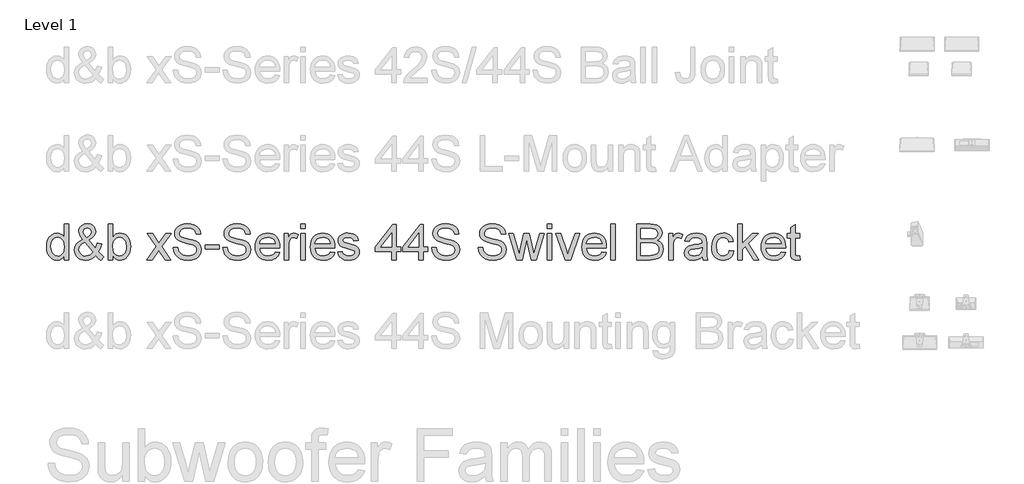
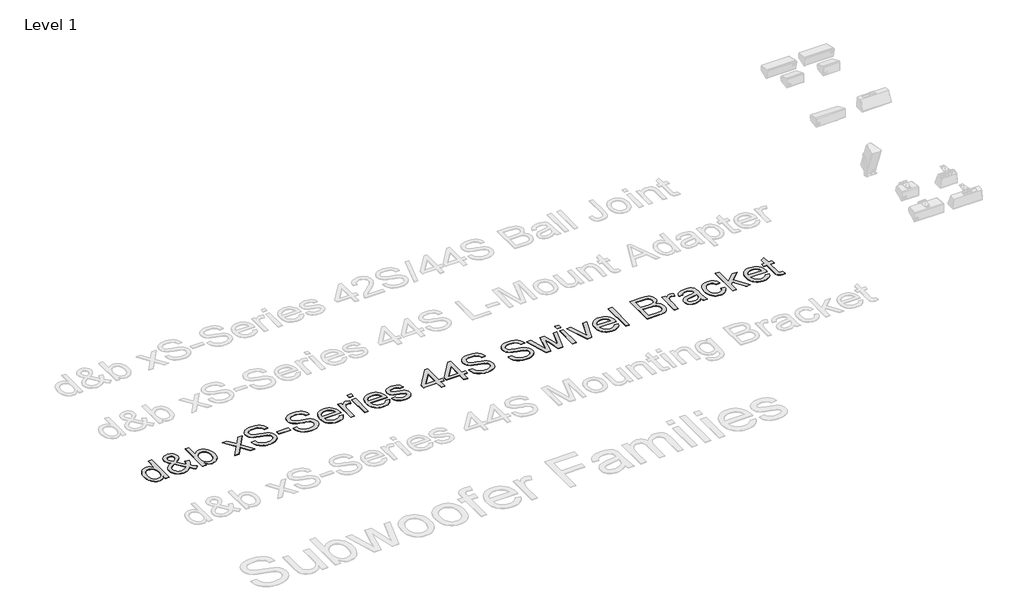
# One storey, part 26 of 55: 1 proxy.
"""IFC4 building model written with IfcOpenShell, lengths in millimetres."""

import ifcopenshell
import ifcopenshell.guid

model = None  # the IFC model being written
_history = None  # IfcOwnerHistory: only IFC2X3 demands one
_inside = {}  # id of a spatial element -> (the spatial element, [elements in it])
_under = {}  # id of a project, library or spatial element -> (it, [spatial elements below it])
_declared = {}  # id of a project -> (the project, [libraries it declares])
_typed = {}  # id of a type object -> (the type object, [elements of that type])
_made_of = {}  # id of a material, layer set ... -> (it, [elements and type objects made of it])


def new_model(schema):
    """Start an empty IFC model of exactly this schema.

    Asked for "IFC4X3", IfcOpenShell would pick the latest addendum, in which some entities
    have other attributes; the version numbers below select the first issue.
    IFC2X3 requires an IfcOwnerHistory on every rooted entity: one is made here for all.
    """
    global model, _history
    if schema == "IFC4X3":
        model = ifcopenshell.file(schema_version=(4, 3, 0, 0))
    else:
        model = ifcopenshell.file(schema=schema)
    _inside.clear()
    _under.clear()
    _declared.clear()
    _typed.clear()
    _made_of.clear()
    _history = None
    if model.schema == "IFC2X3":
        org = make("IfcOrganization", Name="unknown")
        user = make(
            "IfcPersonAndOrganization",
            ThePerson=make("IfcPerson", FamilyName="unknown"),
            TheOrganization=org,
        )
        app = make(
            "IfcApplication",
            ApplicationDeveloper=org,
            Version="unknown",
            ApplicationFullName="unknown",
            ApplicationIdentifier="unknown",
        )
        _history = make(
            "IfcOwnerHistory",
            OwningUser=user,
            OwningApplication=app,
            ChangeAction="ADDED",
            CreationDate=0,
        )
    return model


def make(cls, **values):
    """One entity of the class cls with the attributes given. An attribute that is None is left unset."""
    return model.create_entity(
        cls, **{name: value for name, value in values.items() if value is not None}
    )


def rooted(cls, **values):
    """An entity with a GlobalId (a new one), such as an element, a storey or a relation."""
    return make(cls, GlobalId=ifcopenshell.guid.new(), OwnerHistory=_history, **values)


def si_unit(unit_type, name, prefix=None):
    """IfcSIUnit, for example si_unit("LENGTHUNIT", "METRE", prefix="MILLI")."""
    return make("IfcSIUnit", UnitType=unit_type, Prefix=prefix, Name=name)


def assignment(units):
    """IfcUnitAssignment: the units of a project."""
    return None if units is None else make("IfcUnitAssignment", Units=units)


def point(xyz):
    """IfcCartesianPoint."""
    return None if xyz is None else make("IfcCartesianPoint", Coordinates=xyz)


def direction(xyz):
    """IfcDirection."""
    return None if xyz is None else make("IfcDirection", DirectionRatios=xyz)


def frame(location, z_axis=None, x_axis=None):
    """IfcAxis2Placement3D, a coordinate frame: its origin and axes. An axis left out is left unset."""
    return make(
        "IfcAxis2Placement3D",
        Location=point(location),
        Axis=direction(z_axis),
        RefDirection=direction(x_axis),
    )


def origin():
    """The frame at (0, 0, 0) with its axes left unset."""
    return frame((0.0, 0.0, 0.0))


def origin_with_axes():
    """The frame at (0, 0, 0) with the z axis (0, 0, 1) and the x axis (1, 0, 0) written out."""
    return frame((0.0, 0.0, 0.0), z_axis=(0.0, 0.0, 1.0), x_axis=(1.0, 0.0, 0.0))


def place(relative_to, where):
    """IfcLocalPlacement: puts the frame where relative to a parent placement (None: the world)."""
    return make(
        "IfcLocalPlacement", PlacementRelTo=relative_to, RelativePlacement=where
    )


def context(
    kind, dimensions, precision=None, world=None, true_north=None, identifier=None
):
    """IfcGeometricRepresentationContext, for example the 3D "Model" context."""
    return make(
        "IfcGeometricRepresentationContext",
        ContextIdentifier=identifier,
        ContextType=kind,
        CoordinateSpaceDimension=dimensions,
        Precision=precision,
        WorldCoordinateSystem=world,
        TrueNorth=true_north,
    )


def project(units=None, contexts=None):
    """IfcProject with its units and contexts."""
    return rooted(
        "IfcProject",
        Name="project",
        RepresentationContexts=contexts,
        UnitsInContext=assignment(units),
    )


def spatial(cls, under=None, at=None, **own):
    """A site, building, storey or space (cls), placed at a placement, below another one or the project."""
    s = rooted(cls, ObjectPlacement=at, **own)
    if under is not None:
        _under.setdefault(under.id(), (under, []))[1].append(s)
    return s


def polyline(points):
    """IfcPolyline through the points."""
    return make("IfcPolyline", Points=[point(p) for p in points])


def outline(outer, holes=None, kind="AREA"):
    """IfcArbitraryClosedProfileDef: a profile drawn as a closed curve; with holes, ...WithVoids."""
    if holes is None:
        return make("IfcArbitraryClosedProfileDef", ProfileType=kind, OuterCurve=outer)
    return make(
        "IfcArbitraryProfileDefWithVoids",
        ProfileType=kind,
        OuterCurve=outer,
        InnerCurves=holes,
    )


def extrude(swept, where, along, depth):
    """IfcExtrudedAreaSolid: the profile swept, set in the frame where, extruded along a direction by depth."""
    return make(
        "IfcExtrudedAreaSolid",
        SweptArea=swept,
        Position=where,
        ExtrudedDirection=direction(along),
        Depth=depth,
    )


def shape(context_of_items, identifier, shape_type, items):
    """IfcShapeRepresentation: the items that make up one representation, for example the "Body"."""
    return make(
        "IfcShapeRepresentation",
        ContextOfItems=context_of_items,
        RepresentationIdentifier=identifier,
        RepresentationType=shape_type,
        Items=items,
    )


def made_of(thing, what):
    """Note that an element or type object is made of a material, layer set ...; save() writes the relation."""
    if what is not None:
        _made_of.setdefault(what.id(), (what, []))[1].append(thing)
    return thing


def element(
    cls,
    number,
    at=None,
    inside=None,
    cuts=None,
    type_object=None,
    material=None,
    context=None,
    identifier="Body",
    shape_type=None,
    held_by="IfcProductDefinitionShape",
    body=None,
    shapes=None,
    **own,
):
    """One element of the class cls, such as IfcWall. Its Tag is "e" and its number.

    at: its placement. inside: the storey or other place that contains it. cuts: it is an
    opening in that element (IfcRelVoidsElement). A single representation is given by context,
    identifier, shape_type and body (its items); several are given by shapes. held_by: the class
    of the entity that holds the representations. save() writes the other relations.
    """
    e = rooted(cls, Tag="e%d" % number, ObjectPlacement=at, **own)
    if body is not None:
        shapes = [shape(context, identifier, shape_type, body)]
    if shapes is not None:
        e.Representation = make(held_by, Representations=shapes)
    if inside is not None:
        _inside.setdefault(inside.id(), (inside, []))[1].append(e)
    if cuts is not None:
        rooted(
            "IfcRelVoidsElement", RelatingBuildingElement=cuts, RelatedOpeningElement=e
        )
    if type_object is not None:
        _typed.setdefault(type_object.id(), (type_object, []))[1].append(e)
    return made_of(e, material)


def aggregate(whole, parts):
    """IfcRelAggregates: a whole, such as a stair, and the parts it consists of."""
    return rooted("IfcRelAggregates", RelatingObject=whole, RelatedObjects=parts)


def save(model, path):
    """Write the relations noted so far, then the file.

    IfcRelAggregates (storeys below a building ...), IfcRelContainedInSpatialStructure (elements
    in a storey), IfcRelDefinesByType, IfcRelAssociatesMaterial and IfcRelDeclares: one each for
    every whole, place, type object, material and project.
    """
    for whole, parts in _under.values():
        aggregate(whole, parts)
    for where, things in _inside.values():
        rooted(
            "IfcRelContainedInSpatialStructure",
            RelatedElements=things,
            RelatingStructure=where,
        )
    for kind, things in _typed.values():
        rooted("IfcRelDefinesByType", RelatedObjects=things, RelatingType=kind)
    for what, things in _made_of.values():
        rooted("IfcRelAssociatesMaterial", RelatedObjects=things, RelatingMaterial=what)
    for by, libraries in _declared.values():
        rooted("IfcRelDeclares", RelatingContext=by, RelatedDefinitions=libraries)
    model.write(path)


model = new_model("IFC4")

# Units and contexts
model_context = context("Model", 3, world=origin())
ifc_project = project(units=[si_unit("LENGTHUNIT", "METRE", prefix="MILLI")], contexts=[model_context])

# Site, building, storey
site = spatial("IfcSite", under=ifc_project)
building = spatial("IfcBuilding", under=site)
storey = spatial("IfcBuildingStorey", under=building, Name="Level 1", Elevation=0.0)

# Proxy
placement = place(None, origin())
element("IfcBuildingElementProxy", 1, Name="400mm Arial", ObjectType="400mm Arial", at=placement, inside=storey, context=model_context, shape_type="SweptSolid", body=[
    extrude(outline(polyline([(-20879.8211974, -9648.6945164), (-20879.8211974, -9601.3113154), (-20894.8491769, -9624.7883181), (-20913.0532043, -9641.5576057), (-20934.4332796, -9651.6191783), (-20958.9894028, -9654.9730358), (-20991.4611202, -9650.1169935), (-21021.1859854, -9635.5488665), (-21046.3491139, -9612.2864616), (-21065.1356211, -9581.3475858), (-21076.8342686, -9543.9830379), (-21080.7338177, -9501.4436165), (-21077.1408369, -9459.4314926), (-21066.3618944, -9421.4905962), (-21048.4092531, -9389.7791682), (-21023.2951755, -9366.4554497), (-20992.9203855, -9352.1080519), (-20959.1856065, -9347.325586), (-20934.6110892, -9350.7468885), (-20912.8815261, -9361.0107962), (-20894.4629008, -9376.7438829), (-20879.8211974, -9396.5727224), (-20879.8211974, -9246.8692758), (-20829.5930424, -9246.8692758), (-20829.5930424, -9648.6945164), (-20879.8211974, -9648.6945164)]), holes=[polyline([(-21030.5056627, -9501.2474128), (-21029.089317, -9525.6042665), (-21024.8402799, -9546.6808392), (-21017.7585515, -9564.4771307), (-21007.8441318, -9578.9931411), (-20983.1469871, -9598.3069458), (-20969.2717046, -9603.135397), (-20954.3786151, -9604.7448807), (-20939.415015, -9603.2089734), (-20925.6225058, -9598.6012514), (-20901.5507606, -9580.1703635), (-20892.0440767, -9566.2613584), (-20885.2535882, -9549.1088603), (-20879.8211974, -9505.0733855), (-20885.3516901, -9456.9298951), (-20892.2648059, -9438.3947739), (-20901.9431681, -9423.5507354), (-20913.6448812, -9412.1770504), (-20926.6280499, -9404.0529896), (-20940.8926743, -9399.1785532), (-20956.4387543, -9397.5537411), (-20971.6261493, -9399.1141738), (-20985.5014319, -9403.7954722), (-20998.064602, -9411.5976362), (-21009.3156597, -9422.5206658), (-21018.586286, -9436.8036843), (-21025.2081619, -9454.6858149), (-21030.5056627, -9501.2474128)])]), origin_with_axes(), (0.0, 0.0, 1.0), 5.0),
    extrude(outline(polyline([(-20523.809528, -9599.0549725), (-20549.3405384, -9623.5191252), (-20577.0788409, -9640.99352), (-20607.0734862, -9651.4781569), (-20639.3735254, -9654.9730358), (-20668.6814577, -9652.3855991), (-20694.8010793, -9644.623289), (-20717.7323904, -9631.6861055), (-20737.4753908, -9613.5740486), (-20750.308341, -9596.2038871), (-20759.4747341, -9577.8404442), (-20764.9745699, -9558.4837198), (-20766.8078485, -9538.1337141), (-20760.9094739, -9502.9396699), (-20743.2143499, -9471.3263438), (-20713.796053, -9443.3182613), (-20672.7281596, -9418.9399477), (-20694.6416638, -9390.5885086), (-20707.7995765, -9368.1231814), (-20714.3846642, -9348.9442668), (-20716.5796934, -9330.4520651), (-20714.8506481, -9312.8979626), (-20709.6635119, -9296.5333452), (-20701.018285, -9281.3582129), (-20688.9149674, -9267.3725657), (-20674.1935562, -9255.6555241), (-20657.6940487, -9247.2862088), (-20639.4164449, -9242.2646195), (-20619.3607448, -9240.5907564), (-20600.212487, -9242.1910431), (-20582.8913764, -9246.9919032), (-20567.397413, -9254.9933366), (-20553.7305969, -9266.1953433), (-20542.5715097, -9279.6414302), (-20534.6007332, -9294.3751041), (-20529.8182672, -9310.396365), (-20528.2241119, -9327.7052129), (-20532.9452642, -9355.68877), (-20547.108721, -9381.563137), (-20570.7144823, -9405.3283139), (-20603.7625482, -9426.9843007), (-20531.069066, -9517.5323224), (-20518.6837055, -9491.6579554), (-20509.3885538, -9461.9085647), (-20459.1603987, -9472.7978718), (-20474.6114425, -9519.3226815), (-20494.6732739, -9555.4977443), (-20466.1256311, -9588.8033276), (-20434.0463211, -9616.3209009), (-20471.7174374, -9654.9730358), (-20497.3465498, -9631.52669), (-20523.809528, -9599.0549725)]), holes=[polyline([(-20557.4584678, -9562.8553842), (-20647.1235727, -9450.9211558), (-20681.3733865, -9472.7733463), (-20702.305872, -9493.0068561), (-20713.0112381, -9512.3329235), (-20716.5796934, -9531.4627873), (-20711.6991256, -9555.1543878), (-20697.0574222, -9579.7289051), (-20686.2784798, -9590.6733944), (-20673.4639236, -9598.4908868), (-20658.6137537, -9603.1813823), (-20641.7279702, -9604.7448807), (-20619.0051256, -9601.8263502), (-20595.5710425, -9593.0707588), (-20574.1480476, -9579.6798541), (-20557.4584678, -9562.8553842)]), polyline([(-20629.1709314, -9395.2973981), (-20602.9041569, -9378.6323438), (-20587.8700461, -9364.1500559), (-20580.8067117, -9350.0601755), (-20578.452267, -9334.5723435), (-20581.5547385, -9317.0243723), (-20590.862153, -9303.0325938), (-20604.829406, -9293.8723321), (-20621.9113933, -9290.8189115), (-20639.3612626, -9293.8478066), (-20653.6473468, -9302.9344919), (-20663.1754905, -9316.3867102), (-20666.3515384, -9332.5122043), (-20662.0350563, -9350.9063041), (-20648.9875082, -9371.360543), (-20629.1709314, -9395.2973981)])]), origin_with_axes(), (0.0, 0.0, 1.0), 5.0),
    extrude(outline(polyline([(-20333.590011, -9648.6945164), (-20383.8181661, -9648.6945164), (-20383.8181661, -9246.8692758), (-20333.590011, -9246.8692758), (-20333.590011, -9395.8860093), (-20317.0721094, -9374.6408241), (-20298.4204923, -9359.4656918), (-20277.6351595, -9350.3606124), (-20254.7161112, -9347.325586), (-20228.8417442, -9350.0601755), (-20204.3898543, -9358.263944), (-20182.758393, -9371.4218567), (-20165.3453119, -9389.0188788), (-20151.6968898, -9410.883332), (-20141.3594058, -9436.8435381), (-20134.8478945, -9465.8203766), (-20132.6773907, -9496.734727), (-20134.9245365, -9532.4070178), (-20141.6659741, -9563.7873519), (-20152.9017034, -9590.8757295), (-20168.6317244, -9613.6721505), (-20187.5132678, -9631.7412878), (-20208.2035643, -9644.6478145), (-20230.702614, -9652.3917305), (-20255.0104168, -9654.9730358), (-20278.6836232, -9651.6437038), (-20299.671291, -9641.6557076), (-20317.9734203, -9625.0090473), (-20333.590011, -9601.7037229), (-20333.590011, -9648.6945164)]), holes=[polyline([(-20333.590011, -9499.0891717), (-20330.1564457, -9540.9786682), (-20319.8557498, -9569.3301073), (-20307.6849872, -9584.8240707), (-20293.5399244, -9595.8911874), (-20277.4205617, -9602.5314574), (-20259.3268989, -9604.7448807), (-20244.3050508, -9603.1139372), (-20230.3377977, -9598.2211067), (-20217.4251396, -9590.0663891), (-20205.5670767, -9578.6497845), (-20195.6526569, -9564.0019498), (-20188.5709285, -9546.1535416), (-20184.3218914, -9525.1045601), (-20182.9055458, -9500.8550053), (-20188.3379366, -9454.8942814), (-20195.1284251, -9437.1010555), (-20204.6351089, -9422.7659205), (-20216.0670419, -9411.735592), (-20228.6332778, -9403.8567859), (-20242.3338164, -9399.1295023), (-20257.1686579, -9397.5537411), (-20272.190506, -9399.1846846), (-20286.1577591, -9404.0775151), (-20299.0704171, -9412.2322327), (-20310.9284801, -9423.6488372), (-20320.8428999, -9438.1495192), (-20327.9246283, -9455.556469), (-20332.1736653, -9475.8696865), (-20333.590011, -9499.0891717)])]), origin_with_axes(), (0.0, 0.0, 1.0), 5.0),
    extrude(outline(polyline([(-19950.6003285, -9648.6945164), (-19843.2768878, -9500.2663941), (-19944.3218092, -9353.6041054), (-19884.0872638, -9353.6041054), (-19835.3306367, -9424.3355503), (-19812.4729021, -9457.5920827), (-19792.6563253, -9430.3197641), (-19737.1306695, -9353.6041054), (-19676.6999204, -9353.6041054), (-19782.8461387, -9500.364496), (-19680.623995, -9648.6945164), (-19740.9566422, -9648.6945164), (-19802.5646137, -9559.4218189), (-19813.7482263, -9543.0388074), (-19890.1695795, -9648.6945164), (-19950.6003285, -9648.6945164)])), origin_with_axes(), (0.0, 0.0, 1.0), 5.0),
    extrude(outline(polyline([(-19649.2313981, -9510.56709), (-19599.003243, -9510.56709), (-19593.2397584, -9538.4402825), (-19582.8164352, -9560.844296), (-19566.556051, -9578.6252591), (-19543.2813835, -9592.6293004), (-19514.8318425, -9601.7159856), (-19483.0468381, -9604.7448807), (-19455.063281, -9602.4517496), (-19430.5623402, -9595.5723563), (-19410.7089752, -9584.6830493), (-19396.6681457, -9570.3601769), (-19388.3172244, -9553.9158517), (-19385.533584, -9536.6621862), (-19387.6182486, -9519.849979), (-19393.8722425, -9505.3186402), (-19406.5764341, -9492.9210169), (-19428.0116917, -9482.5099565), (-19501.1466323, -9463.3310418), (-19549.1552327, -9450.639113), (-19579.8733793, -9438.5603208), (-19604.8770922, -9421.6622745), (-19622.5967416, -9401.1835101), (-19633.1549549, -9377.565486), (-19636.6743593, -9351.2496606), (-19632.3210891, -9321.8313637), (-19619.2612782, -9294.3996296), (-19597.8382834, -9271.1494875), (-19568.395461, -9254.2759667), (-19533.054264, -9244.012059), (-19493.9361452, -9240.5907564), (-19451.5561394, -9244.1714745), (-19414.4736342, -9254.9136288), (-19384.013005, -9272.59649), (-19361.4986269, -9296.999329), (-19347.249331, -9326.6015669), (-19341.5839483, -9359.8826247), (-19391.8121033, -9359.8826247), (-19401.0336787, -9329.9125049), (-19409.3968627, -9318.0544419), (-19420.2616443, -9308.2810436), (-19450.3053406, -9295.1844445), (-19491.9741079, -9290.8189115), (-19534.6238939, -9295.1353936), (-19550.9271976, -9300.5309962), (-19563.8827752, -9308.0848398), (-19580.805347, -9327.1411272), (-19586.4462043, -9349.7781326), (-19582.4485532, -9369.0796746), (-19570.4556002, -9384.6042948), (-19542.1041611, -9398.4857088), (-19488.4424407, -9412.6614283), (-19433.0639377, -9426.1259093), (-19399.5621507, -9437.8736077), (-19370.9286687, -9456.0960292), (-19350.9526764, -9478.5858819), (-19339.2172408, -9505.097911), (-19335.3054289, -9535.3868619), (-19339.805852, -9566.3502632), (-19353.3071212, -9595.4742545), (-19375.2574136, -9620.5392811), (-19405.1049061, -9639.3257883), (-19440.9979261, -9651.0612239), (-19481.0848008, -9654.9730358), (-19530.2951491, -9650.7546556), (-19570.7989567, -9638.099515), (-19603.0622077, -9616.958563), (-19627.5508858, -9587.2827487), (-19643.2717098, -9551.1322113), (-19649.2313981, -9510.56709)])), origin_with_axes(), (0.0, 0.0, 1.0), 5.0),
    extrude(outline(polyline([(-19291.3557932, -9529.4026481), (-19291.3557932, -9479.174493), (-19134.3928086, -9479.174493), (-19134.3928086, -9529.4026481), (-19291.3557932, -9529.4026481)])), origin_with_axes(), (0.0, 0.0, 1.0), 5.0),
    extrude(outline(polyline([(-19090.4431729, -9510.56709), (-19040.2150178, -9510.56709), (-19034.4515332, -9538.4402825), (-19024.02821, -9560.844296), (-19007.7678258, -9578.6252591), (-18984.4931583, -9592.6293004), (-18956.0436173, -9601.7159856), (-18924.2586129, -9604.7448807), (-18896.2750558, -9602.4517496), (-18871.774115, -9595.5723563), (-18851.9207499, -9584.6830493), (-18837.8799205, -9570.3601769), (-18829.5289992, -9553.9158517), (-18826.7453587, -9536.6621862), (-18828.8300234, -9519.849979), (-18835.0840173, -9505.3186402), (-18847.7882089, -9492.9210169), (-18869.2234665, -9482.5099565), (-18942.3584071, -9463.3310418), (-18990.3670075, -9450.639113), (-19021.0851541, -9438.5603208), (-19046.088867, -9421.6622745), (-19063.8085164, -9401.1835101), (-19074.3667297, -9377.565486), (-19077.8861341, -9351.2496606), (-19073.5328638, -9321.8313637), (-19060.473053, -9294.3996296), (-19039.0500582, -9271.1494875), (-19009.6072358, -9254.2759667), (-18974.2660388, -9244.012059), (-18935.14792, -9240.5907564), (-18892.7679141, -9244.1714745), (-18855.685409, -9254.9136288), (-18825.2247798, -9272.59649), (-18802.7104017, -9296.999329), (-18788.4611058, -9326.6015669), (-18782.7957231, -9359.8826247), (-18833.0238781, -9359.8826247), (-18842.2454535, -9329.9125049), (-18850.6086375, -9318.0544419), (-18861.4734191, -9308.2810436), (-18891.5171154, -9295.1844445), (-18933.1858827, -9290.8189115), (-18975.8356687, -9295.1353936), (-18992.1389724, -9300.5309962), (-19005.09455, -9308.0848398), (-19022.0171218, -9327.1411272), (-19027.657979, -9349.7781326), (-19023.660328, -9369.0796746), (-19011.667375, -9384.6042948), (-18983.3159359, -9398.4857088), (-18929.6542155, -9412.6614283), (-18874.2757125, -9426.1259093), (-18840.7739255, -9437.8736077), (-18812.1404435, -9456.0960292), (-18792.1644512, -9478.5858819), (-18780.4290156, -9505.097911), (-18776.5172037, -9535.3868619), (-18781.0176267, -9566.3502632), (-18794.518896, -9595.4742545), (-18816.4691883, -9620.5392811), (-18846.3166809, -9639.3257883), (-18882.2097009, -9651.0612239), (-18922.2965756, -9654.9730358), (-18971.5069238, -9650.7546556), (-19012.0107315, -9638.099515), (-19044.2739825, -9616.958563), (-19068.7626606, -9587.2827487), (-19084.4834846, -9551.1322113), (-19090.4431729, -9510.56709)])), origin_with_axes(), (0.0, 0.0, 1.0), 5.0),
    extrude(outline(polyline([(-18500.850962, -9560.795245), (-18451.6038255, -9567.0737644), (-18459.1546035, -9586.7983707), (-18469.3480004, -9604.180795), (-18482.1840164, -9619.2210372), (-18497.6626513, -9631.9190974), (-18515.6244897, -9642.0051955), (-18535.9101161, -9649.2095512), (-18583.4527326, -9654.9730358), (-18614.618469, -9652.4867667), (-18642.3874282, -9645.0279592), (-18666.7596104, -9632.5966135), (-18687.7350155, -9615.1927294), (-18704.602405, -9593.300685), (-18716.6505403, -9567.4048582), (-18723.8794215, -9537.5052491), (-18726.2890486, -9503.6018575), (-18723.8548961, -9468.5488348), (-18716.5524385, -9437.6528785), (-18704.3816758, -9410.9139888), (-18687.342608, -9388.3321657), (-18666.4223852, -9370.3917871), (-18642.6081574, -9357.5772309), (-18615.8999246, -9349.8884972), (-18586.2976867, -9347.325586), (-18557.6488763, -9349.8823658), (-18531.7407868, -9357.5527054), (-18508.5734182, -9370.3366048), (-18488.1467704, -9388.2340638), (-18471.472519, -9410.766836), (-18459.5623394, -9437.4566748), (-18452.4162316, -9468.3035801), (-18450.0341957, -9503.3075519), (-18450.3285013, -9516.8456094), (-18676.0608935, -9516.8456094), (-18673.1515601, -9536.8890467), (-18667.3666157, -9554.4431493), (-18658.7060604, -9569.507917), (-18647.1698942, -9582.0833498), (-18633.3957791, -9591.9977696), (-18618.0213774, -9599.079498), (-18582.4717139, -9604.7448807), (-18555.7389556, -9602.1206558), (-18533.2245775, -9594.2479811), (-18514.9285796, -9580.6363473), (-18500.850962, -9560.795245)]), holes=[polyline([(-18676.0608935, -9466.6174543), (-18500.2623508, -9466.6174543), (-18507.0559049, -9440.0808997), (-18520.3732332, -9421.0981887), (-18534.0707061, -9410.7974929), (-18549.65664, -9403.439853), (-18567.1310348, -9399.025269), (-18586.4938904, -9397.5537411), (-18620.3512967, -9402.2503679), (-18648.3471166, -9416.3402483), (-18667.8080741, -9438.3028034), (-18676.0608935, -9466.6174543)])]), origin_with_axes(), (0.0, 0.0, 1.0), 5.0),
    extrude(outline(polyline([(-18399.8060406, -9648.6945164), (-18399.8060406, -9353.6041054), (-18355.8564049, -9353.6041054), (-18355.8564049, -9397.2594355), (-18339.6205462, -9371.9491542), (-18324.6600117, -9357.0376707), (-18309.6504263, -9349.7536071), (-18293.2674148, -9347.325586), (-18268.2514391, -9351.2006097), (-18242.843056, -9362.8256807), (-18259.618475, -9407.8544369), (-18277.2768108, -9400.128915), (-18294.9351465, -9397.5537411), (-18309.9324692, -9400.0308132), (-18323.3356365, -9407.4620295), (-18334.1636299, -9419.2833042), (-18341.4354307, -9434.9305518), (-18347.5422718, -9462.9876853), (-18349.5778855, -9493.5954673), (-18349.5778855, -9648.6945164), (-18399.8060406, -9648.6945164)])), origin_with_axes(), (0.0, 0.0, 1.0), 5.0),
    extrude(outline(polyline([(-18211.4504591, -9297.0974309), (-18211.4504591, -9246.8692758), (-18161.222304, -9246.8692758), (-18161.222304, -9297.0974309), (-18211.4504591, -9297.0974309)])), origin_with_axes(), (0.0, 0.0, 1.0), 5.0),
    extrude(outline(polyline([(-18211.4504591, -9648.6945164), (-18211.4504591, -9353.6041054), (-18161.222304, -9353.6041054), (-18161.222304, -9648.6945164), (-18211.4504591, -9648.6945164)])), origin_with_axes(), (0.0, 0.0, 1.0), 5.0),
    extrude(outline(polyline([(-17879.2775429, -9560.795245), (-17830.0304065, -9567.0737644), (-17837.5811844, -9586.7983707), (-17847.7745814, -9604.180795), (-17860.6105973, -9619.2210372), (-17876.0892323, -9631.9190974), (-17894.0510707, -9642.0051955), (-17914.336697, -9649.2095512), (-17961.8793136, -9654.9730358), (-17993.0450499, -9652.4867667), (-18020.8140092, -9645.0279592), (-18045.1861914, -9632.5966135), (-18066.1615965, -9615.1927294), (-18083.0289859, -9593.300685), (-18095.0771213, -9567.4048582), (-18102.3060025, -9537.5052491), (-18104.7156295, -9503.6018575), (-18102.281477, -9468.5488348), (-18094.9790194, -9437.6528785), (-18082.8082567, -9410.9139888), (-18065.769189, -9388.3321657), (-18044.8489662, -9370.3917871), (-18021.0347384, -9357.5772309), (-17994.3265055, -9349.8884972), (-17964.7242676, -9347.325586), (-17936.0754573, -9349.8823658), (-17910.1673678, -9357.5527054), (-17886.9999991, -9370.3366048), (-17866.5733513, -9388.2340638), (-17849.8990999, -9410.766836), (-17837.9889203, -9437.4566748), (-17830.8428126, -9468.3035801), (-17828.4607766, -9503.3075519), (-17828.7550822, -9516.8456094), (-18054.4874745, -9516.8456094), (-18051.578141, -9536.8890467), (-18045.7931967, -9554.4431493), (-18037.1326413, -9569.507917), (-18025.5964751, -9582.0833498), (-18011.8223601, -9591.9977696), (-17996.4479584, -9599.079498), (-17960.8982949, -9604.7448807), (-17934.1655366, -9602.1206558), (-17911.6511585, -9594.2479811), (-17893.3551606, -9580.6363473), (-17879.2775429, -9560.795245)]), holes=[polyline([(-18054.4874745, -9466.6174543), (-17878.6889317, -9466.6174543), (-17885.4824859, -9440.0808997), (-17898.7998141, -9421.0981887), (-17912.4972871, -9410.7974929), (-17928.0832209, -9403.439853), (-17945.5576157, -9399.025269), (-17964.9204714, -9397.5537411), (-17998.7778777, -9402.2503679), (-18026.7736975, -9416.3402483), (-18046.234655, -9438.3028034), (-18054.4874745, -9466.6174543)])]), origin_with_axes(), (0.0, 0.0, 1.0), 5.0),
    extrude(outline(polyline([(-17797.0681797, -9560.795245), (-17746.8400246, -9554.5167257), (-17738.918299, -9576.0010342), (-17723.5898825, -9591.7954345), (-17700.7566734, -9601.5075192), (-17670.3205696, -9604.7448807), (-17640.2523479, -9601.7772993), (-17619.1113959, -9592.874555), (-17606.6034081, -9579.9741597), (-17602.4340788, -9565.0136253), (-17606.6279335, -9552.2113318), (-17619.2094978, -9542.4501962), (-17670.9091808, -9528.1273239), (-17746.545719, -9503.5528066), (-17765.6878455, -9491.2042343), (-17779.5569967, -9474.858011), (-17787.9814944, -9455.556469), (-17790.7896603, -9434.3419406), (-17788.5333174, -9414.880983), (-17781.7642887, -9396.9160789), (-17771.0957109, -9381.1584668), (-17757.1407205, -9368.3193852), (-17725.2085633, -9353.4569526), (-17704.3251287, -9348.8584276), (-17681.9946916, -9347.325586), (-17649.302245, -9349.7903953), (-17620.8772295, -9357.1848234), (-17598.0194949, -9368.785369), (-17582.0288908, -9383.8685308), (-17571.4338893, -9403.5502176), (-17564.7629625, -9428.946338), (-17614.9911176, -9435.2248574), (-17621.3309506, -9419.4181943), (-17633.8757267, -9407.5110804), (-17652.748073, -9400.0430759), (-17678.070617, -9397.5537411), (-17706.9125654, -9399.9327113), (-17726.140531, -9407.069622), (-17736.9562617, -9417.3703179), (-17740.5615053, -9429.2406436), (-17734.5772915, -9443.8578215), (-17715.8398352, -9454.9433323), (-17672.5769125, -9465.6364356), (-17598.8533607, -9489.2789852), (-17579.3801404, -9500.5852252), (-17564.6158097, -9516.0607944), (-17555.3083952, -9535.7547439), (-17552.2059237, -9559.7161245), (-17555.8479555, -9584.4868455), (-17566.7740507, -9607.7860386), (-17584.5672766, -9627.7865564), (-17608.8107, -9642.6612517), (-17638.0941069, -9651.8950898), (-17671.0072827, -9654.9730358), (-17698.040478, -9653.4892451), (-17721.6523707, -9649.037873), (-17741.8429609, -9641.6189194), (-17758.6122485, -9631.2323844), (-17772.3097214, -9617.9273189), (-17783.2848676, -9601.7527738), (-17791.5376871, -9582.7087492), (-17797.0681797, -9560.795245)])), origin_with_axes(), (0.0, 0.0, 1.0), 5.0),
    extrude(outline(polyline([(-17188.0517994, -9648.6945164), (-17188.0517994, -9554.5167257), (-17370.1288616, -9554.5167257), (-17370.1288616, -9504.2885706), (-17175.4947607, -9253.1477952), (-17137.8236444, -9253.1477952), (-17137.8236444, -9504.2885706), (-17087.5954893, -9504.2885706), (-17087.5954893, -9554.5167257), (-17137.8236444, -9554.5167257), (-17137.8236444, -9648.6945164), (-17188.0517994, -9648.6945164)]), holes=[polyline([(-17188.0517994, -9504.2885706), (-17188.0517994, -9349.0914196), (-17308.3246864, -9504.2885706), (-17188.0517994, -9504.2885706)])]), origin_with_axes(), (0.0, 0.0, 1.0), 5.0),
    extrude(outline(polyline([(-16880.4043496, -9648.6945164), (-16880.4043496, -9554.5167257), (-17062.4814117, -9554.5167257), (-17062.4814117, -9504.2885706), (-16867.8473108, -9253.1477952), (-16830.1761945, -9253.1477952), (-16830.1761945, -9504.2885706), (-16779.9480394, -9504.2885706), (-16779.9480394, -9554.5167257), (-16830.1761945, -9554.5167257), (-16830.1761945, -9648.6945164), (-16880.4043496, -9648.6945164)]), holes=[polyline([(-16880.4043496, -9504.2885706), (-16880.4043496, -9349.0914196), (-17000.6772366, -9504.2885706), (-16880.4043496, -9504.2885706)])]), origin_with_axes(), (0.0, 0.0, 1.0), 5.0),
    extrude(outline(polyline([(-16735.9984038, -9510.56709), (-16685.7702487, -9510.56709), (-16680.0067641, -9538.4402825), (-16669.5834409, -9560.844296), (-16653.3230567, -9578.6252591), (-16630.0483891, -9592.6293004), (-16601.5988482, -9601.7159856), (-16569.8138438, -9604.7448807), (-16541.8302867, -9602.4517496), (-16517.3293458, -9595.5723563), (-16497.4759808, -9584.6830493), (-16483.4351513, -9570.3601769), (-16475.08423, -9553.9158517), (-16472.3005896, -9536.6621862), (-16474.3852543, -9519.849979), (-16480.6392482, -9505.3186402), (-16493.3434397, -9492.9210169), (-16514.7786973, -9482.5099565), (-16587.913638, -9463.3310418), (-16635.9222383, -9450.639113), (-16666.6403849, -9438.5603208), (-16691.6440979, -9421.6622745), (-16709.3637473, -9401.1835101), (-16719.9219606, -9377.565486), (-16723.441365, -9351.2496606), (-16719.0880947, -9321.8313637), (-16706.0282839, -9294.3996296), (-16684.605289, -9271.1494875), (-16655.1624667, -9254.2759667), (-16619.8212697, -9244.012059), (-16580.7031509, -9240.5907564), (-16538.323145, -9244.1714745), (-16501.2406399, -9254.9136288), (-16470.7800107, -9272.59649), (-16448.2656326, -9296.999329), (-16434.0163367, -9326.6015669), (-16428.3509539, -9359.8826247), (-16478.579109, -9359.8826247), (-16487.8006843, -9329.9125049), (-16496.1638684, -9318.0544419), (-16507.02865, -9308.2810436), (-16537.0723462, -9295.1844445), (-16578.7411136, -9290.8189115), (-16621.3908995, -9295.1353936), (-16637.6942033, -9300.5309962), (-16650.6497809, -9308.0848398), (-16667.5723527, -9327.1411272), (-16673.2132099, -9349.7781326), (-16669.2155589, -9369.0796746), (-16657.2226059, -9384.6042948), (-16628.8711668, -9398.4857088), (-16575.2094464, -9412.6614283), (-16519.8309434, -9426.1259093), (-16486.3291564, -9437.8736077), (-16457.6956744, -9456.0960292), (-16437.7196821, -9478.5858819), (-16425.9842464, -9505.097911), (-16422.0724345, -9535.3868619), (-16426.5728576, -9566.3502632), (-16440.0741268, -9595.4742545), (-16462.0244192, -9620.5392811), (-16491.8719118, -9639.3257883), (-16527.7649318, -9651.0612239), (-16567.8518065, -9654.9730358), (-16617.0621547, -9650.7546556), (-16657.5659624, -9638.099515), (-16689.8292134, -9616.958563), (-16714.3178915, -9587.2827487), (-16730.0387154, -9551.1322113), (-16735.9984038, -9510.56709)])), origin_with_axes(), (0.0, 0.0, 1.0), 5.0),
    extrude(outline(polyline([(-16208.6027755, -9510.56709), (-16158.3746204, -9510.56709), (-16152.6111358, -9538.4402825), (-16142.1878126, -9560.844296), (-16125.9274284, -9578.6252591), (-16102.6527609, -9592.6293004), (-16074.2032199, -9601.7159856), (-16042.4182155, -9604.7448807), (-16014.4346584, -9602.4517496), (-15989.9337175, -9595.5723563), (-15970.0803525, -9584.6830493), (-15956.0395231, -9570.3601769), (-15947.6886018, -9553.9158517), (-15944.9049613, -9536.6621862), (-15946.989626, -9519.849979), (-15953.2436199, -9505.3186402), (-15965.9478115, -9492.9210169), (-15987.383069, -9482.5099565), (-16060.5180097, -9463.3310418), (-16108.5266101, -9450.639113), (-16139.2447566, -9438.5603208), (-16164.2484696, -9421.6622745), (-16181.968119, -9401.1835101), (-16192.5263323, -9377.565486), (-16196.0457367, -9351.2496606), (-16191.6924664, -9321.8313637), (-16178.6326556, -9294.3996296), (-16157.2096607, -9271.1494875), (-16127.7668384, -9254.2759667), (-16092.4256414, -9244.012059), (-16053.3075226, -9240.5907564), (-16010.9275167, -9244.1714745), (-15973.8450116, -9254.9136288), (-15943.3843824, -9272.59649), (-15920.8700043, -9296.999329), (-15906.6207084, -9326.6015669), (-15900.9553256, -9359.8826247), (-15951.1834807, -9359.8826247), (-15960.4050561, -9329.9125049), (-15968.7682401, -9318.0544419), (-15979.6330217, -9308.2810436), (-16009.6767179, -9295.1844445), (-16051.3454853, -9290.8189115), (-16093.9952712, -9295.1353936), (-16110.298575, -9300.5309962), (-16123.2541526, -9308.0848398), (-16140.1767244, -9327.1411272), (-16145.8175816, -9349.7781326), (-16141.8199306, -9369.0796746), (-16129.8269776, -9384.6042948), (-16101.4755385, -9398.4857088), (-16047.8138181, -9412.6614283), (-15992.4353151, -9426.1259093), (-15958.9335281, -9437.8736077), (-15930.3000461, -9456.0960292), (-15910.3240538, -9478.5858819), (-15898.5886181, -9505.097911), (-15894.6768063, -9535.3868619), (-15899.1772293, -9566.3502632), (-15912.6784986, -9595.4742545), (-15934.6287909, -9620.5392811), (-15964.4762835, -9639.3257883), (-16000.3693035, -9651.0612239), (-16040.4561782, -9654.9730358), (-16089.6665264, -9650.7546556), (-16130.1703341, -9638.099515), (-16162.4335851, -9616.958563), (-16186.9222632, -9587.2827487), (-16202.6430872, -9551.1322113), (-16208.6027755, -9510.56709)])), origin_with_axes(), (0.0, 0.0, 1.0), 5.0),
    extrude(outline(polyline([(-15776.2678547, -9648.6945164), (-15866.423469, -9353.6041054), (-15814.3313785, -9353.6041054), (-15763.3184085, -9525.7728791), (-15748.1126194, -9587.2827487), (-15735.6536825, -9528.029222), (-15695.1376121, -9353.6041054), (-15635.4916779, -9353.6041054), (-15594.9756075, -9527.5387127), (-15583.8900967, -9581.200433), (-15567.9975945, -9524.5956567), (-15516.9846245, -9353.6041054), (-15464.5982284, -9353.6041054), (-15555.0481483, -9648.6945164), (-15615.6751011, -9648.6945164), (-15654.3272361, -9475.6428259), (-15665.5108487, -9421.6867999), (-15715.2484945, -9648.6945164), (-15776.2678547, -9648.6945164)])), origin_with_axes(), (0.0, 0.0, 1.0), 5.0),
    extrude(outline(polyline([(-15430.0663718, -9648.6945164), (-15430.0663718, -9353.6041054), (-15379.8382167, -9353.6041054), (-15379.8382167, -9648.6945164), (-15430.0663718, -9648.6945164)])), origin_with_axes(), (0.0, 0.0, 1.0), 5.0),
    extrude(outline(polyline([(-15430.0663718, -9297.0974309), (-15430.0663718, -9246.8692758), (-15379.8382167, -9246.8692758), (-15379.8382167, -9297.0974309), (-15430.0663718, -9297.0974309)])), origin_with_axes(), (0.0, 0.0, 1.0), 5.0),
    extrude(outline(polyline([(-15231.9006037, -9648.6945164), (-15335.888581, -9353.6041054), (-15282.8154719, -9353.6041054), (-15219.8340743, -9530.3836668), (-15200.9004143, -9589.8333972), (-15182.3591617, -9533.7191302), (-15119.0834586, -9353.6041054), (-15065.9122475, -9353.6041054), (-15168.4286968, -9648.6945164), (-15231.9006037, -9648.6945164)])), origin_with_axes(), (0.0, 0.0, 1.0), 5.0),
    extrude(outline(polyline([(-14815.3600833, -9560.795245), (-14766.1129469, -9567.0737644), (-14773.6637249, -9586.7983707), (-14783.8571218, -9604.180795), (-14796.6931378, -9619.2210372), (-14812.1717727, -9631.9190974), (-14830.1336111, -9642.0051955), (-14850.4192375, -9649.2095512), (-14897.961854, -9654.9730358), (-14929.1275903, -9652.4867667), (-14956.8965496, -9645.0279592), (-14981.2687318, -9632.5966135), (-15002.2441369, -9615.1927294), (-15019.1115264, -9593.300685), (-15031.1596617, -9567.4048582), (-15038.3885429, -9537.5052491), (-15040.79817, -9503.6018575), (-15038.3640174, -9468.5488348), (-15031.0615598, -9437.6528785), (-15018.8907972, -9410.9139888), (-15001.8517294, -9388.3321657), (-14980.9315066, -9370.3917871), (-14957.1172788, -9357.5772309), (-14930.409046, -9349.8884972), (-14900.8068081, -9347.325586), (-14872.1579977, -9349.8823658), (-14846.2499082, -9357.5527054), (-14823.0825396, -9370.3366048), (-14802.6558918, -9388.2340638), (-14785.9816403, -9410.766836), (-14774.0714607, -9437.4566748), (-14766.925353, -9468.3035801), (-14764.5433171, -9503.3075519), (-14764.8376227, -9516.8456094), (-14990.5700149, -9516.8456094), (-14987.6606815, -9536.8890467), (-14981.8757371, -9554.4431493), (-14973.2151818, -9569.507917), (-14961.6790156, -9582.0833498), (-14947.9049005, -9591.9977696), (-14932.5304988, -9599.079498), (-14896.9808353, -9604.7448807), (-14870.248077, -9602.1206558), (-14847.7336989, -9594.2479811), (-14829.437701, -9580.6363473), (-14815.3600833, -9560.795245)]), holes=[polyline([(-14990.5700149, -9466.6174543), (-14814.7714721, -9466.6174543), (-14821.5650263, -9440.0808997), (-14834.8823545, -9421.0981887), (-14848.5798275, -9410.7974929), (-14864.1657614, -9403.439853), (-14881.6401561, -9399.025269), (-14901.0030118, -9397.5537411), (-14934.8604181, -9402.2503679), (-14962.8562379, -9416.3402483), (-14982.3171955, -9438.3028034), (-14990.5700149, -9466.6174543)])]), origin_with_axes(), (0.0, 0.0, 1.0), 5.0),
    extrude(outline(polyline([(-14714.315162, -9648.6945164), (-14714.315162, -9246.8692758), (-14664.0870069, -9246.8692758), (-14664.0870069, -9648.6945164), (-14714.315162, -9648.6945164)])), origin_with_axes(), (0.0, 0.0, 1.0), 5.0),
    extrude(outline(polyline([(-14425.5032703, -9648.6945164), (-14425.5032703, -9246.8692758), (-14272.1700547, -9246.8692758), (-14229.9985153, -9249.8245945), (-14197.0730768, -9258.6905506), (-14171.8363719, -9273.6878733), (-14152.7310336, -9295.0372917), (-14140.7012924, -9320.1513693), (-14136.6913786, -9346.4426692), (-14140.0636303, -9370.6370417), (-14150.1803851, -9393.3844118), (-14167.1152196, -9413.2868277), (-14190.9417102, -9428.946338), (-14162.4799065, -9443.8087706), (-14141.4493191, -9466.4212506), (-14128.4630847, -9495.2877244), (-14124.1343399, -9528.9121388), (-14127.0896586, -9556.9324841), (-14135.9556146, -9582.9172157), (-14149.1871037, -9605.0146609), (-14165.2390215, -9621.3731469), (-14184.8961827, -9633.2189472), (-14208.9434025, -9641.7783349), (-14238.1654956, -9646.9654711), (-14273.3472771, -9648.6945164), (-14425.5032703, -9648.6945164)]), holes=[polyline([(-14375.2751152, -9598.4663614), (-14272.2681566, -9598.4663614), (-14234.9894477, -9596.504324), (-14203.449698, -9585.5659661), (-14191.8736779, -9576.1359242), (-14182.5540007, -9563.2477917), (-14176.4103714, -9547.4779168), (-14174.3624949, -9529.4026481), (-14176.7659906, -9508.4088489), (-14183.9764777, -9490.3581057), (-14196.5703047, -9476.2436998), (-14215.12382, -9467.0589127), (-14241.4028572, -9462.0189293), (-14277.1732499, -9460.3389349), (-14375.2751152, -9460.3389349), (-14375.2751152, -9598.4663614)]), polyline([(-14375.2751152, -9410.1107798), (-14283.5498711, -9410.1107798), (-14229.9862526, -9405.7942977), (-14211.2365336, -9398.3508187), (-14197.7597898, -9387.2039943), (-14189.6295977, -9372.5255026), (-14186.9195337, -9354.4870222), (-14189.4456567, -9336.9758392), (-14197.0240258, -9321.7209991), (-14209.3112845, -9309.8138852), (-14225.9640761, -9302.3458807), (-14251.5196121, -9298.4095434), (-14290.5151036, -9297.0974309), (-14375.2751152, -9297.0974309), (-14375.2751152, -9410.1107798)])]), origin_with_axes(), (0.0, 0.0, 1.0), 5.0),
    extrude(outline(polyline([(-14061.349146, -9648.6945164), (-14061.349146, -9353.6041054), (-14017.3995103, -9353.6041054), (-14017.3995103, -9397.2594355), (-14001.1636516, -9371.9491542), (-13986.2031171, -9357.0376707), (-13971.1935317, -9349.7536071), (-13954.8105202, -9347.325586), (-13929.7945445, -9351.2006097), (-13904.3861614, -9362.8256807), (-13921.1615804, -9407.8544369), (-13938.8199162, -9400.128915), (-13956.4782519, -9397.5537411), (-13971.4755746, -9400.0308132), (-13984.878742, -9407.4620295), (-13995.7067354, -9419.2833042), (-14002.9785361, -9434.9305518), (-14009.0853772, -9462.9876853), (-14011.1209909, -9493.5954673), (-14011.1209909, -9648.6945164), (-14061.349146, -9648.6945164)])), origin_with_axes(), (0.0, 0.0, 1.0), 5.0),
    extrude(outline(polyline([(-13684.637983, -9611.0234001), (-13708.6361518, -9631.6002664), (-13733.3455591, -9645.0647474), (-13759.3302907, -9652.4959637), (-13787.1544323, -9654.9730358), (-13809.5185919, -9653.4831137), (-13829.1297679, -9649.0133475), (-13845.9879604, -9641.5637371), (-13860.0931692, -9631.1342825), (-13871.2307966, -9618.3871714), (-13879.1862447, -9603.9845913), (-13883.9595136, -9587.9265422), (-13885.5506033, -9570.2130241), (-13883.1471076, -9549.3909032), (-13875.9366205, -9530.4817686), (-13864.8143215, -9514.2949609), (-13850.6753901, -9501.6398202), (-13834.0593867, -9492.0748883), (-13815.5058714, -9485.1587068), (-13772.046745, -9477.6048632), (-13720.6904185, -9469.6586121), (-13684.9322886, -9460.3389349), (-13684.637983, -9449.1553222), (-13688.0960737, -9426.739046), (-13698.470346, -9412.0728171), (-13721.6714371, -9401.1835101), (-13753.9960018, -9397.5537411), (-13783.9170707, -9399.9694995), (-13804.8127681, -9407.2167748), (-13819.062064, -9420.6199422), (-13829.0439288, -9441.5033767), (-13879.2720839, -9435.2248574), (-13870.5532806, -9407.7563351), (-13857.5425207, -9386.1739247), (-13839.0257936, -9369.6682858), (-13813.7890887, -9357.4300781), (-13782.9237893, -9349.851709), (-13747.5212787, -9347.325586), (-13713.5657705, -9349.5574034), (-13686.6490712, -9356.2528557), (-13666.3542478, -9366.3205597), (-13652.2643674, -9378.669132), (-13642.9201647, -9393.9362348), (-13636.8623745, -9412.7595302), (-13634.4098279, -9456.7091659), (-13634.4098279, -9519.2000541), (-13631.8591794, -9606.4616634), (-13621.8527891, -9648.6945164), (-13672.0809442, -9648.6945164), (-13680.1252972, -9631.2323844), (-13684.637983, -9611.0234001)]), holes=[polyline([(-13684.637983, -9510.56709), (-13718.3850247, -9518.930274), (-13765.6701238, -9525.9690828), (-13808.8839955, -9534.1115377), (-13820.1289218, -9539.6788185), (-13828.4553176, -9547.3552895), (-13833.6056655, -9556.5523394), (-13835.3224482, -9566.681357), (-13831.5823146, -9581.617366), (-13820.3619137, -9593.8555737), (-13801.9065003, -9602.022554), (-13776.461329, -9604.7448807), (-13749.483316, -9601.7405111), (-13725.6445627, -9592.7274022), (-13706.3184952, -9579.4468622), (-13692.8785397, -9563.6401991), (-13686.9188513, -9547.3552895), (-13684.9322886, -9524.7918605), (-13684.637983, -9510.56709)])]), origin_with_axes(), (0.0, 0.0, 1.0), 5.0),
    extrude(outline(polyline([(-13376.9905331, -9541.9596869), (-13326.7623781, -9548.2382063), (-13332.2254257, -9571.9390038), (-13340.7664193, -9592.9113432), (-13352.385359, -9611.1552245), (-13367.0822447, -9626.6706476), (-13384.2378084, -9639.0529425), (-13403.2327821, -9647.8974388), (-13424.0671658, -9653.2041366), (-13446.7409594, -9654.9730358), (-13474.9115232, -9652.5051608), (-13500.1696878, -9645.1015356), (-13522.5154534, -9632.7621604), (-13541.9488198, -9615.487035), (-13557.6788407, -9593.601122), (-13568.91457, -9567.4293837), (-13575.6560076, -9536.9718202), (-13577.9031534, -9502.2284314), (-13574.0649179, -9457.530769), (-13562.5502115, -9418.7927949), (-13543.1750931, -9387.5105626), (-13515.7556217, -9365.1801255), (-13482.9528105, -9351.7892209), (-13447.4276725, -9347.325586), (-13425.1432206, -9348.8584276), (-13404.986353, -9353.4569526), (-13386.9570695, -9361.1211608), (-13371.0553703, -9371.8510523), (-13357.5510354, -9385.4013725), (-13346.7138449, -9401.5268666), (-13338.543799, -9420.2275347), (-13333.0408974, -9441.5033767), (-13383.2690525, -9447.7818961), (-13392.3802633, -9425.8683919), (-13406.5682455, -9410.1598308), (-13425.0481844, -9400.7052635), (-13447.035265, -9397.5537411), (-13464.1019239, -9399.1049768), (-13479.4947197, -9403.758684), (-13493.2136525, -9411.5148628), (-13505.2587221, -9422.373513), (-13515.065843, -9436.5860207), (-13522.0709293, -9454.403772), (-13526.2739811, -9475.8267669), (-13527.6749984, -9500.8550053), (-13522.1935566, -9547.9316379), (-13515.3417545, -9565.8689509), (-13505.7492314, -9580.0722616), (-13493.9432851, -9590.8665325), (-13480.4512129, -9598.576726), (-13465.2730149, -9603.202842), (-13448.4086911, -9604.7448807), (-13422.3994341, -9600.8943825), (-13401.0745411, -9589.3428879), (-13385.5621836, -9569.7960912), (-13376.9905331, -9541.9596869)])), origin_with_axes(), (0.0, 0.0, 1.0), 5.0),
    extrude(outline(polyline([(-13282.8127424, -9648.6945164), (-13282.8127424, -9246.8692758), (-13232.5845873, -9246.8692758), (-13232.5845873, -9462.7914815), (-13119.9636458, -9353.6041054), (-13050.5075251, -9353.6041054), (-13164.5999946, -9464.1649076), (-13044.2290058, -9648.6945164), (-13102.8939213, -9648.6945164), (-13200.6033792, -9499.0891717), (-13232.5845873, -9530.187463), (-13232.5845873, -9648.6945164), (-13282.8127424, -9648.6945164)])), origin_with_axes(), (0.0, 0.0, 1.0), 5.0),
    extrude(outline(polyline([(-12793.6768416, -9560.795245), (-12744.4297052, -9567.0737644), (-12751.9804831, -9586.7983707), (-12762.1738801, -9604.180795), (-12775.009896, -9619.2210372), (-12790.488531, -9631.9190974), (-12808.4503694, -9642.0051955), (-12828.7359957, -9649.2095512), (-12876.2786122, -9654.9730358), (-12907.4443486, -9652.4867667), (-12935.2133079, -9645.0279592), (-12959.58549, -9632.5966135), (-12980.5608951, -9615.1927294), (-12997.4282846, -9593.300685), (-13009.4764199, -9567.4048582), (-13016.7053012, -9537.5052491), (-13019.1149282, -9503.6018575), (-13016.6807757, -9468.5488348), (-13009.3783181, -9437.6528785), (-12997.2075554, -9410.9139888), (-12980.1684877, -9388.3321657), (-12959.2482649, -9370.3917871), (-12935.4340371, -9357.5772309), (-12908.7258042, -9349.8884972), (-12879.1235663, -9347.325586), (-12850.4747559, -9349.8823658), (-12824.5666664, -9357.5527054), (-12801.3992978, -9370.3366048), (-12780.97265, -9388.2340638), (-12764.2983986, -9410.766836), (-12752.388219, -9437.4566748), (-12745.2421112, -9468.3035801), (-12742.8600753, -9503.3075519), (-12743.1543809, -9516.8456094), (-12968.8867731, -9516.8456094), (-12965.9774397, -9536.8890467), (-12960.1924953, -9554.4431493), (-12951.53194, -9569.507917), (-12939.9957738, -9582.0833498), (-12926.2216588, -9591.9977696), (-12910.847257, -9599.079498), (-12875.2975936, -9604.7448807), (-12848.5648353, -9602.1206558), (-12826.0504572, -9594.2479811), (-12807.7544593, -9580.6363473), (-12793.6768416, -9560.795245)]), holes=[polyline([(-12968.8867731, -9466.6174543), (-12793.0882304, -9466.6174543), (-12799.8817846, -9440.0808997), (-12813.1991128, -9421.0981887), (-12826.8965857, -9410.7974929), (-12842.4825196, -9403.439853), (-12859.9569144, -9399.025269), (-12879.3197701, -9397.5537411), (-12913.1771763, -9402.2503679), (-12941.1729962, -9416.3402483), (-12960.6339537, -9438.3028034), (-12968.8867731, -9466.6174543)])]), origin_with_axes(), (0.0, 0.0, 1.0), 5.0),
    extrude(outline(polyline([(-12585.8970907, -9606.8050199), (-12579.6185713, -9650.1660444), (-12617.1915858, -9654.9730358), (-12641.3001192, -9652.8883712), (-12659.277286, -9646.6343773), (-12671.9814776, -9636.995869), (-12680.2710852, -9624.7576613), (-12684.8328219, -9603.7393366), (-12686.3534009, -9567.7604775), (-12686.3534009, -9403.8322604), (-12724.0245172, -9403.8322604), (-12724.0245172, -9353.6041054), (-12686.3534009, -9353.6041054), (-12686.3534009, -9281.8916418), (-12636.1252458, -9252.3629803), (-12636.1252458, -9353.6041054), (-12585.8970907, -9353.6041054), (-12585.8970907, -9403.8322604), (-12636.1252458, -9403.8322604), (-12636.1252458, -9566.2889495), (-12633.4764954, -9592.187842), (-12624.8925822, -9601.3603664), (-12607.7738067, -9604.7448807), (-12585.8970907, -9606.8050199)])), origin_with_axes(), (0.0, 0.0, 1.0), 5.0),
])

save(model, "model.ifc")
